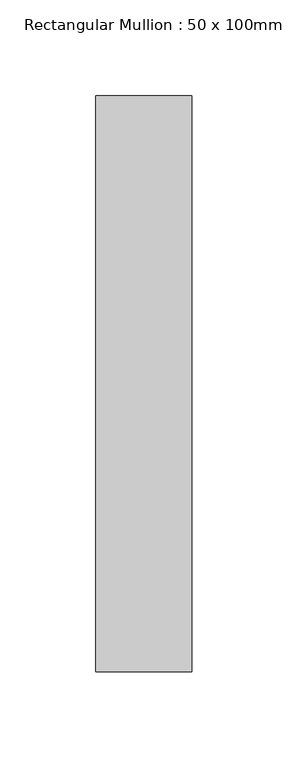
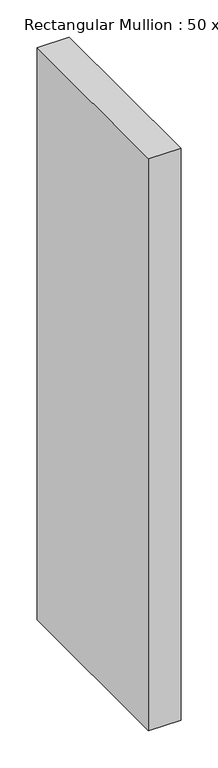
"""IFC4 building model written with IfcOpenShell, lengths in millimetres: member geometry, Rectangular Mullion : 50 x 100mm."""

from ifc_helpers import new_model, si_unit, frame, origin, place, context, project, spatial, polyline, outline, extrude, source, transform, mapped, element, save


def rectangular_mullion_50_x_100mm_dbebb1b2(model_context):
    return source(origin(), model_context, "Body", "SweptSolid", [
        extrude(outline(polyline([(0.0, 175.0), (0.0, -125.0), (-50.0, -125.0), (-50.0, 175.0), (0.0, 175.0)])), frame((0.0, 0.0, -938.0), z_axis=(0.0, 0.0, 1.0), x_axis=(1.0, 0.0, 0.0)), (0.0, 0.0, 1.0), 938.0),
    ])


if __name__ == "__main__":
    model = new_model("IFC4")
    model_context = context("Model", 3, world=origin())
    ifc_project = project(units=[si_unit("LENGTHUNIT", "METRE", prefix="MILLI")], contexts=[model_context])
    site = spatial("IfcSite", under=ifc_project)
    building = spatial("IfcBuilding", under=site)
    placement = place(None, origin())
    rectangular_mullion_50_x_100mm_shape = rectangular_mullion_50_x_100mm_dbebb1b2(model_context)
    element("IfcMember", 1, ObjectType="Rectangular Mullion : 50 x 100mm", at=placement, inside=building, context=model_context, shape_type="MappedRepresentation", body=[
        mapped(rectangular_mullion_50_x_100mm_shape, transform((0.0, 0.0, 0.0), x_axis=(1.0, 0.0, 0.0), y_axis=(0.0, 1.0, 0.0), z_axis=(0.0, 0.0, 1.0))),
    ])
    save(model, "model.ifc")
